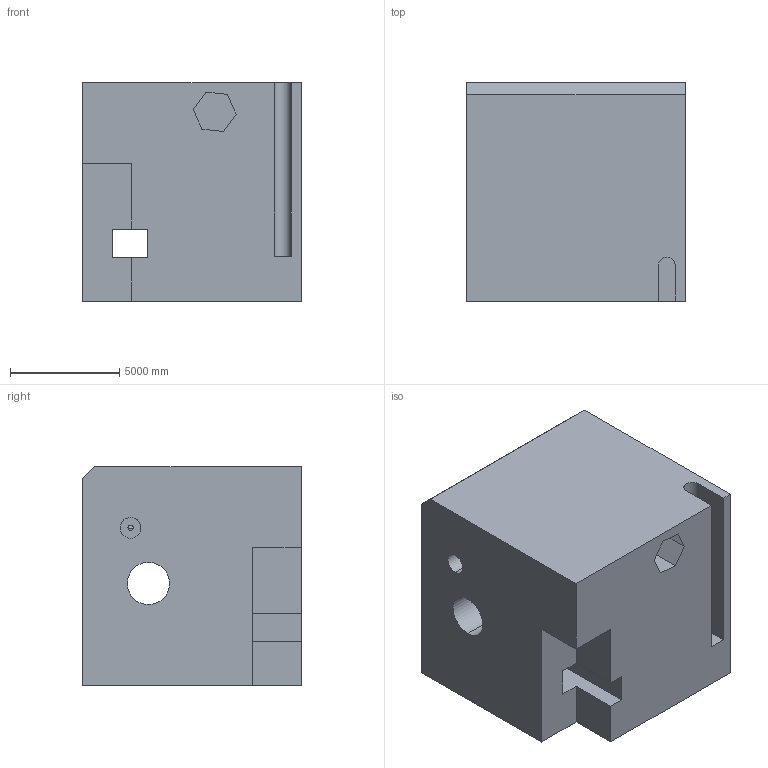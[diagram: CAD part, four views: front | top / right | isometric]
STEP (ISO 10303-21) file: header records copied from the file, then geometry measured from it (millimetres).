
FILE_DESCRIPTION (( 'STEP AP203' ), '1' );
FILE_NAME ('188.STEP', '2022-09-06T13:37:49', ( 'user' ), ( '' ), 'SwSTEP 2.0', 'SolidWorks 2021', '' );
FILE_SCHEMA (( 'CONFIG_CONTROL_DESIGN' ));
Length unit declared in the file: centimetre
Products named in the file (1): 188
Bounding box: 10000 x 10000 x 10000 mm (x, y, z)
Volume: 866077650670.6 mm3; surface area: 819174070.3 mm2
Topology: 1 solids, 1 shells, 46 faces, 129 edges, 86 vertices
Faces by surface type: plane 39, cylinder 7
Entity records: 1554 total; most frequent: CARTESIAN_POINT 298, ORIENTED_EDGE 258, DIRECTION 223, EDGE_CURVE 129, LINE 105, VECTOR 105, VERTEX_POINT 86, AXIS2_PLACEMENT_3D 59
